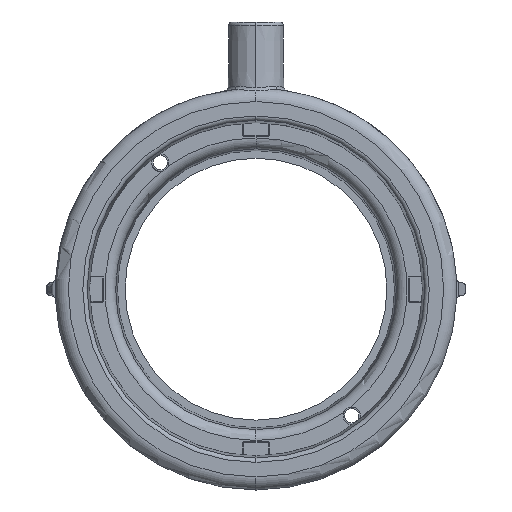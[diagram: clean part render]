
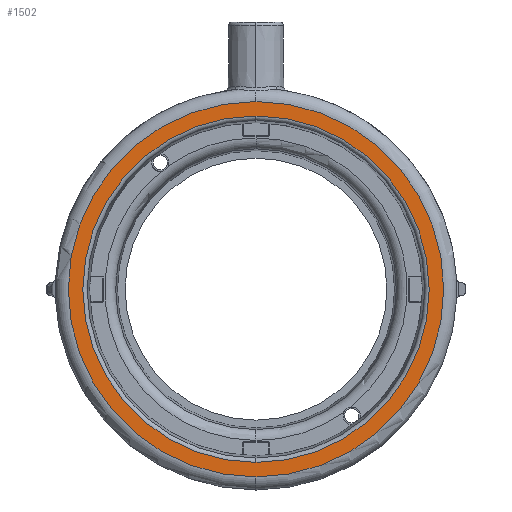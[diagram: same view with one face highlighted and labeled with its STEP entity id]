
A CAD part, left-side view. The second image highlights one B-rep face of the part: STEP entity #1502.
In plain terms, the highlighted planar face has unit normal (-1, 0, 0).
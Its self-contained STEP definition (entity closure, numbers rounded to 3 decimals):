
#136 = CIRCLE ( 'NONE', #17000, 43. ) ;
#139 = AXIS2_PLACEMENT_3D ( 'NONE', #1320, #1321, #1322 ) ;
#140 = CIRCLE ( 'NONE', #139, 39.675 ) ;
#1320 = CARTESIAN_POINT ( 'NONE',  ( -82.5, 0., 0. ) ) ;
#1321 = DIRECTION ( 'NONE',  ( -1., 0., 0. ) ) ;
#1322 = DIRECTION ( 'NONE',  ( 0., 0., 1. ) ) ;
#1325 = CARTESIAN_POINT ( 'NONE',  ( -82.5, 0., 0. ) ) ;
#1326 = DIRECTION ( 'NONE',  ( -1., 0., 0. ) ) ;
#1327 = DIRECTION ( 'NONE',  ( 0., 0., 1. ) ) ;
#1502 = ADVANCED_FACE ( 'NONE', ( #13651, #13659 ), #13660, .F. ) ;
#1985 = EDGE_CURVE ( 'NONE', #4044, #4084, #3230, .T. ) ;
#2000 = EDGE_CURVE ( 'NONE', #4036, #4045, #3242, .T. ) ;
#2723 = CARTESIAN_POINT ( 'NONE',  ( -82.5, 0., 0. ) ) ;
#2724 = DIRECTION ( 'NONE',  ( -1., 0., 0. ) ) ;
#2725 = DIRECTION ( 'NONE',  ( 0., 0., 1. ) ) ;
#2763 = AXIS2_PLACEMENT_3D ( 'NONE', #13655, #13661, #13662 ) ;
#2804 = CARTESIAN_POINT ( 'NONE',  ( -82.5, 0., 0. ) ) ;
#2805 = DIRECTION ( 'NONE',  ( -1., 0., 0. ) ) ;
#2806 = DIRECTION ( 'NONE',  ( 0., 0., 1. ) ) ;
#2857 = CARTESIAN_POINT ( 'NONE',  ( -82.5, 0., 39.675 ) ) ;
#2865 = CARTESIAN_POINT ( 'NONE',  ( -82.5, 0., 43. ) ) ;
#2866 = CARTESIAN_POINT ( 'NONE',  ( -82.5, 0., -39.675 ) ) ;
#2905 = CARTESIAN_POINT ( 'NONE',  ( -82.5, 0., -43. ) ) ;
#3230 = CIRCLE ( 'NONE', #3234, 43. ) ;
#3234 = AXIS2_PLACEMENT_3D ( 'NONE', #2723, #2724, #2725 ) ;
#3242 = CIRCLE ( 'NONE', #3247, 39.675 ) ;
#3247 = AXIS2_PLACEMENT_3D ( 'NONE', #2804, #2805, #2806 ) ;
#3728 = ORIENTED_EDGE ( 'NONE', *, *, #2000, .F. ) ;
#3729 = ORIENTED_EDGE ( 'NONE', *, *, #4571, .F. ) ;
#3730 = ORIENTED_EDGE ( 'NONE', *, *, #1985, .T. ) ;
#3731 = ORIENTED_EDGE ( 'NONE', *, *, #4572, .T. ) ;
#4036 = VERTEX_POINT ( 'NONE', #2857 ) ;
#4044 = VERTEX_POINT ( 'NONE', #2865 ) ;
#4045 = VERTEX_POINT ( 'NONE', #2866 ) ;
#4084 = VERTEX_POINT ( 'NONE', #2905 ) ;
#4571 = EDGE_CURVE ( 'NONE', #4045, #4036, #140, .T. ) ;
#4572 = EDGE_CURVE ( 'NONE', #4084, #4044, #136, .T. ) ;
#13651 = FACE_BOUND ( 'NONE', #18770, .T. ) ;
#13655 = CARTESIAN_POINT ( 'NONE',  ( -82.5, 43., 0. ) ) ;
#13659 = FACE_OUTER_BOUND ( 'NONE', #18780, .T. ) ;
#13660 = PLANE ( 'NONE',  #2763 ) ;
#13661 = DIRECTION ( 'NONE',  ( 1., 0., 0. ) ) ;
#13662 = DIRECTION ( 'NONE',  ( 0., 0., -1. ) ) ;
#17000 = AXIS2_PLACEMENT_3D ( 'NONE', #1325, #1326, #1327 ) ;
#18770 = EDGE_LOOP ( 'NONE', ( #3728, #3729 ) ) ;
#18780 = EDGE_LOOP ( 'NONE', ( #3730, #3731 ) ) ;
